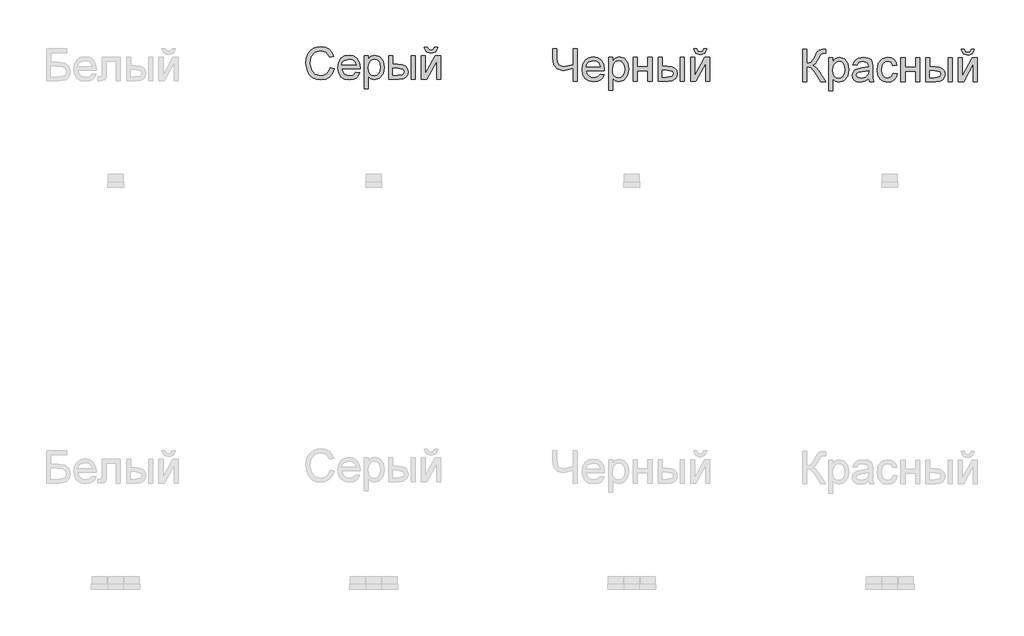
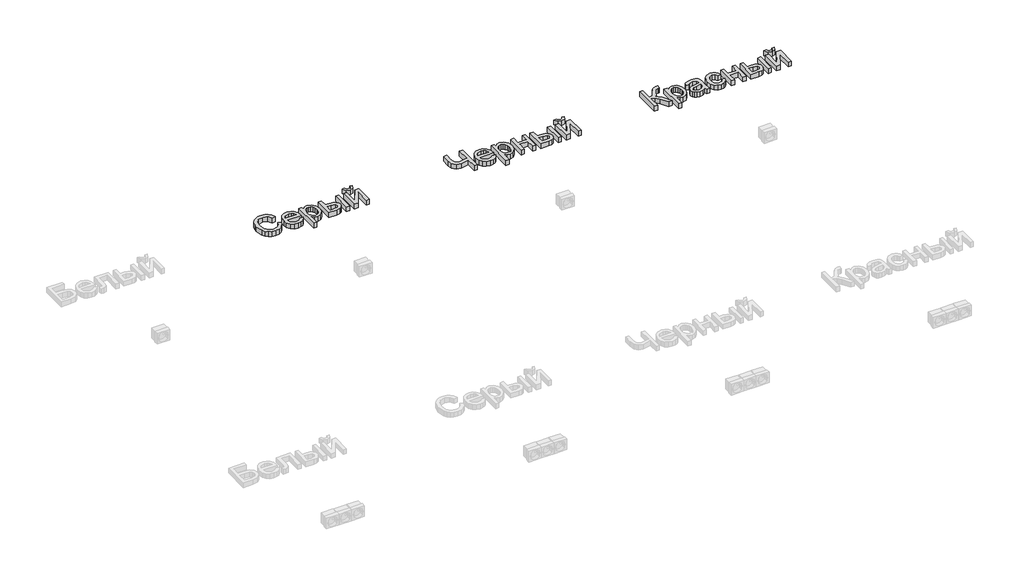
# One storey, part 15 of 15: 3 proxies.
"""IFC4 building model written with IfcOpenShell, lengths in millimetres."""

from ifc_helpers import new_model, si_unit, origin, origin_with_axes, place, context, project, spatial, polyline, outline, extrude, element, save

model = new_model("IFC4")

# Units and contexts
model_context = context("Model", 3, world=origin())
ifc_project = project(units=[si_unit("LENGTHUNIT", "METRE", prefix="MILLI")], contexts=[model_context])

# Site, building, storey
site = spatial("IfcSite", under=ifc_project)
building = spatial("IfcBuilding", under=site)
storey = spatial("IfcBuildingStorey", under=building, Name="Этаж 01", Elevation=0.0)

# Proxies
placement = place(None, origin())
element("IfcBuildingElementProxy", 1, Name="100 мм Arial", ObjectType="100 мм Arial", at=placement, inside=storey, context=model_context, shape_type="SweptSolid", body=[
    extrude(outline(polyline([(2173.9900999, 4640.2502819), (2186.5471386, 4637.0129204), (2180.7529972, 4622.380414), (2171.6601806, 4611.6903764), (2159.7162785, 4605.1512739), (2145.3688806, 4602.9715731), (2130.8038193, 4604.6209107), (2119.2369963, 4609.5689235), (2110.3710402, 4617.6439333), (2103.9085798, 4628.6742618), (2098.6478673, 4655.5296475), (2100.1347237, 4670.1774822), (2104.5952928, 4682.8264915), (2111.7965829, 4693.0750707), (2121.5056019, 4700.5216155), (2133.0203083, 4705.0557611), (2145.6386608, 4706.5671429), (2159.4066444, 4704.611237), (2170.7895265, 4698.7435192), (2179.4316877, 4689.3257401), (2184.9775088, 4676.7196504), (2172.42047, 4673.7275435), (2162.1197742, 4689.1663245), (2145.1481514, 4694.0101042), (2125.5032529, 4688.639027), (2114.4054794, 4674.2180528), (2111.204906, 4655.5541729), (2114.9940906, 4633.9227116), (2126.7908399, 4620.1026113), (2144.1180819, 4615.5286118), (2154.599653, 4617.085979), (2163.3337847, 4621.7580803), (2169.9280695, 4629.4958649), (2173.9900999, 4640.2502819)])), origin_with_axes(), (0.0, 0.0, 1.0), 20.0),
    extrude(outline(polyline([(2253.8940692, 4626.5160208), (2266.2058533, 4624.9463909), (2261.7698096, 4615.6696333), (2254.6911469, 4608.7350577), (2245.1292807, 4604.4124442), (2233.2436266, 4602.9715731), (2218.5099527, 4605.4578422), (2207.1730558, 4612.9166497), (2199.9441746, 4624.8636175), (2197.5345476, 4640.8143676), (2199.9687001, 4657.3016124), (2207.2711577, 4669.6317906), (2218.4547704, 4677.3205243), (2232.532388, 4679.8834355), (2246.171613, 4677.3266557), (2257.0701171, 4669.6563161), (2264.2162249, 4657.3506633), (2266.5982608, 4640.887944), (2266.5246844, 4637.5034297), (2210.0915863, 4637.5034297), (2212.2651558, 4628.1040447), (2217.3143362, 4621.1939946), (2224.6014654, 4616.9449575), (2233.4888812, 4615.5286118), (2245.8006653, 4618.1528367), (2253.8940692, 4626.5160208)]), holes=[polyline([(2210.0915863, 4650.0604685), (2254.041222, 4650.0604685), (2249.0135014, 4661.4402848), (2241.6926497, 4665.8548688), (2232.4833371, 4667.3263968), (2217.0200306, 4662.62977), (2212.1547912, 4657.1391312), (2210.0915863, 4650.0604685)])]), origin_with_axes(), (0.0, 0.0, 1.0), 20.0),
    extrude(outline(polyline([(2279.1552996, 4576.2878657), (2279.1552996, 4678.3138057), (2291.7123383, 4678.3138057), (2291.7123383, 4666.0020216), (2300.3943534, 4676.413082), (2312.1175263, 4679.8834355), (2328.034554, 4675.0273932), (2338.4333517, 4661.342183), (2341.9404934, 4641.99159), (2337.9796306, 4621.6477157), (2326.4771869, 4607.7908272), (2310.5969474, 4602.9715731), (2299.6708522, 4606.1966719), (2291.7123383, 4614.3513895), (2291.7123383, 4576.2878657), (2279.1552996, 4576.2878657)]), holes=[polyline([(2291.7123383, 4640.8388931), (2293.070436, 4629.5817041), (2297.1447291, 4621.7090294), (2303.1565341, 4617.0737162), (2310.3271673, 4615.5286118), (2317.6142965, 4617.1288985), (2323.7793856, 4621.9297586), (2327.9824374, 4630.0906075), (2329.3834546, 4641.7708608), (2328.0161599, 4652.9667362), (2323.9142756, 4660.9497755), (2317.9116677, 4665.7322415), (2310.8422021, 4667.3263968), (2303.7451453, 4665.6310739), (2297.5126111, 4660.5451053), (2293.1624065, 4652.2279065), (2291.7123383, 4640.8388931)])]), origin_with_axes(), (0.0, 0.0, 1.0), 20.0),
    extrude(outline(polyline([(2425.1308752, 4678.3138057), (2437.687914, 4678.3138057), (2437.687914, 4604.5412029), (2425.1308752, 4604.5412029), (2425.1308752, 4678.3138057)])), origin_with_axes(), (0.0, 0.0, 1.0), 20.0),
    extrude(outline(polyline([(2356.067162, 4678.3138057), (2368.6242008, 4678.3138057), (2368.6242008, 4651.6300983), (2384.148821, 4651.6300983), (2397.5673168, 4650.0574028), (2407.5093277, 4645.3393162), (2413.662154, 4637.8559833), (2415.7130962, 4627.9875487), (2413.9932478, 4619.002031), (2408.8337029, 4611.4205962), (2399.8972361, 4606.2610513), (2386.8466223, 4604.5412029), (2356.067162, 4604.5412029), (2356.067162, 4678.3138057)]), holes=[polyline([(2368.6242008, 4617.0982417), (2381.5245961, 4617.0982417), (2398.1773877, 4619.7347293), (2403.1560574, 4627.9630233), (2399.4649747, 4635.6885452), (2383.1678023, 4639.0730595), (2368.6242008, 4639.0730595), (2368.6242008, 4617.0982417)])]), origin_with_axes(), (0.0, 0.0, 1.0), 20.0),
    extrude(outline(polyline([(2497.3338482, 4704.9975131), (2506.7516272, 4704.9975131), (2500.6570489, 4691.03026), (2487.1312542, 4686.1619549), (2472.4895508, 4690.9934718), (2465.9412512, 4704.9975131), (2475.3590303, 4704.9975131), (2478.8906975, 4697.921916), (2486.0030827, 4695.579734), (2493.802181, 4697.8483396), (2497.3338482, 4704.9975131)])), origin_with_axes(), (0.0, 0.0, 1.0), 20.0),
    extrude(outline(polyline([(2456.5234722, 4678.3138057), (2469.0805109, 4678.3138057), (2469.0805109, 4622.0523859), (2499.9335476, 4678.3138057), (2516.1694063, 4678.3138057), (2516.1694063, 4604.5412029), (2503.6123675, 4604.5412029), (2503.6123675, 4660.4592662), (2472.9555346, 4604.5412029), (2456.5234722, 4604.5412029), (2456.5234722, 4678.3138057)])), origin_with_axes(), (0.0, 0.0, 1.0), 20.0),
])
element("IfcBuildingElementProxy", 2, Name="100 мм Arial", ObjectType="100 мм Arial", at=placement, inside=storey, context=model_context, shape_type="SweptSolid", body=[
    extrude(outline(polyline([(2939.4582433, 4599.1330428), (2926.9012045, 4599.1330428), (2926.9012045, 4639.3548076), (2895.8029132, 4632.0952696), (2877.4456016, 4637.0616765), (2866.8015492, 4649.6677662), (2864.1160106, 4669.668284), (2864.1160106, 4699.589353), (2876.6730494, 4699.589353), (2876.6730494, 4671.3605412), (2878.1813656, 4657.7826299), (2882.7063141, 4649.814919), (2897.2008647, 4644.6523084), (2926.9012045, 4650.8817768), (2926.9012045, 4699.589353), (2939.4582433, 4699.589353), (2939.4582433, 4599.1330428)])), origin_with_axes(), (0.0, 0.0, 1.0), 20.0),
    extrude(outline(polyline([(3011.5140634, 4621.1078607), (3023.8258475, 4619.5382308), (3019.3898038, 4610.2614732), (3012.311141, 4603.3268976), (3002.7492748, 4599.0042841), (2990.8636207, 4597.563413), (2976.1299468, 4600.0496821), (2964.79305, 4607.5084896), (2957.5641688, 4619.4554574), (2955.1545417, 4635.4062076), (2957.5886943, 4651.8934523), (2964.8911519, 4664.2236305), (2976.0747645, 4671.9123642), (2990.1523822, 4674.4752755), (3003.7916072, 4671.9184956), (3014.6901113, 4664.248156), (3021.836219, 4651.9425032), (3024.2182549, 4635.479784), (3024.1446785, 4632.0952696), (2967.7115805, 4632.0952696), (2969.8851499, 4622.6958846), (2974.9343303, 4615.7858345), (2982.2214595, 4611.5367974), (2991.1088754, 4610.1204518), (3003.4206595, 4612.7446767), (3011.5140634, 4621.1078607)]), holes=[polyline([(2967.7115805, 4644.6523084), (3011.6612162, 4644.6523084), (3006.6334956, 4656.0321248), (2999.3126439, 4660.4467087), (2990.1033313, 4661.9182367), (2974.6400247, 4657.2216099), (2969.7747853, 4651.7309711), (2967.7115805, 4644.6523084)])]), origin_with_axes(), (0.0, 0.0, 1.0), 20.0),
    extrude(outline(polyline([(3036.7752937, 4570.8797056), (3036.7752937, 4672.9056456), (3049.3323325, 4672.9056456), (3049.3323325, 4660.5938615), (3058.0143476, 4671.004922), (3069.7375205, 4674.4752755), (3085.6545481, 4669.6192331), (3096.0533459, 4655.9340229), (3099.5604876, 4636.5834299), (3095.5996247, 4616.2395556), (3084.097181, 4602.3826671), (3068.2169416, 4597.563413), (3057.2908463, 4600.7885118), (3049.3323325, 4608.9432294), (3049.3323325, 4570.8797056), (3036.7752937, 4570.8797056)]), holes=[polyline([(3049.3323325, 4635.430733), (3050.6904302, 4624.173544), (3054.7647233, 4616.3008693), (3060.7765282, 4611.6655561), (3067.9471614, 4610.1204518), (3075.2342906, 4611.7207384), (3081.3993797, 4616.5215985), (3085.6024315, 4624.6824474), (3087.0034488, 4636.3627008), (3085.636154, 4647.5585761), (3081.5342698, 4655.5416154), (3075.5316619, 4660.3240814), (3068.4621962, 4661.9182367), (3061.3651394, 4660.2229138), (3055.1326053, 4655.1369452), (3050.7824007, 4646.8197465), (3049.3323325, 4635.430733)])]), origin_with_axes(), (0.0, 0.0, 1.0), 20.0),
    extrude(outline(polyline([(3113.6871562, 4672.9056456), (3126.2441949, 4672.9056456), (3126.2441949, 4644.6523084), (3159.2064217, 4644.6523084), (3159.2064217, 4672.9056456), (3171.7634605, 4672.9056456), (3171.7634605, 4599.1330428), (3159.2064217, 4599.1330428), (3159.2064217, 4632.0952696), (3126.2441949, 4632.0952696), (3126.2441949, 4599.1330428), (3113.6871562, 4599.1330428), (3113.6871562, 4672.9056456)])), origin_with_axes(), (0.0, 0.0, 1.0), 20.0),
    extrude(outline(polyline([(3190.5990186, 4672.9056456), (3203.1560574, 4672.9056456), (3203.1560574, 4646.2219382), (3218.6806776, 4646.2219382), (3232.0991734, 4644.6492427), (3242.0411843, 4639.9311561), (3248.1940107, 4632.4478232), (3250.2449528, 4622.5793887), (3248.5251045, 4613.5938709), (3243.3655595, 4606.0124362), (3234.4290927, 4600.8528912), (3221.3784789, 4599.1330428), (3190.5990186, 4599.1330428), (3190.5990186, 4672.9056456)]), holes=[polyline([(3203.1560574, 4611.6900816), (3216.0564527, 4611.6900816), (3232.7092443, 4614.3265692), (3237.687914, 4622.5548632), (3233.9968313, 4630.2803851), (3217.6996589, 4633.6648995), (3203.1560574, 4633.6648995), (3203.1560574, 4611.6900816)])]), origin_with_axes(), (0.0, 0.0, 1.0), 20.0),
    extrude(outline(polyline([(3259.6627319, 4672.9056456), (3272.2197706, 4672.9056456), (3272.2197706, 4599.1330428), (3259.6627319, 4599.1330428), (3259.6627319, 4672.9056456)])), origin_with_axes(), (0.0, 0.0, 1.0), 20.0),
    extrude(outline(polyline([(3291.0553288, 4672.9056456), (3303.6123675, 4672.9056456), (3303.6123675, 4616.6442258), (3334.4654042, 4672.9056456), (3350.7012629, 4672.9056456), (3350.7012629, 4599.1330428), (3338.1442242, 4599.1330428), (3338.1442242, 4655.0511061), (3307.4873912, 4599.1330428), (3291.0553288, 4599.1330428), (3291.0553288, 4672.9056456)])), origin_with_axes(), (0.0, 0.0, 1.0), 20.0),
    extrude(outline(polyline([(3331.8657048, 4699.589353), (3341.2834839, 4699.589353), (3335.1889055, 4685.6220999), (3321.6631108, 4680.7537948), (3307.0214074, 4685.5853117), (3300.4731079, 4699.589353), (3309.8908869, 4699.589353), (3313.4225541, 4692.5137559), (3320.5349393, 4690.1715739), (3328.3340376, 4692.4401796), (3331.8657048, 4699.589353)])), origin_with_axes(), (0.0, 0.0, 1.0), 20.0),
])
element("IfcBuildingElementProxy", 3, Name="100 мм Arial", ObjectType="100 мм Arial", at=placement, inside=storey, context=model_context, shape_type="SweptSolid", body=[
    extrude(outline(polyline([(3639.0019331, 4697.9694579), (3651.5589719, 4697.9694579), (3651.5589719, 4654.0198222), (3665.5998014, 4657.3430229), (3675.3977252, 4674.1552301), (3682.3261694, 4688.1960596), (3690.1743186, 4695.1490293), (3701.3947195, 4697.9694579), (3709.6352762, 4697.8223051), (3709.6352762, 4685.2652663), (3706.8638985, 4685.3388427), (3704.0925208, 4685.4124191), (3694.2823342, 4682.3957868), (3686.8265925, 4669.470866), (3677.9361109, 4653.7255166), (3669.2663586, 4648.5261178), (3678.9600491, 4642.8484723), (3688.5188497, 4631.0149348), (3709.6352762, 4597.5131478), (3695.0671492, 4597.5131478), (3677.2126097, 4625.8155359), (3664.6433082, 4640.5921294), (3651.5589719, 4644.6020431), (3651.5589719, 4597.5131478), (3639.0019331, 4597.5131478), (3639.0019331, 4697.9694579)])), origin_with_axes(), (0.0, 0.0, 1.0), 20.0),
    extrude(outline(polyline([(3719.0530553, 4569.2598105), (3719.0530553, 4671.2857505), (3731.610094, 4671.2857505), (3731.610094, 4658.9739664), (3740.2921091, 4669.3850269), (3752.015282, 4672.8553804), (3767.9323097, 4667.999338), (3778.3311074, 4654.3141278), (3781.8382491, 4634.9635349), (3777.8773863, 4614.6196605), (3766.3749426, 4600.7627721), (3750.4947031, 4595.9435179), (3739.5686079, 4599.1686167), (3731.610094, 4607.3233343), (3731.610094, 4569.2598105), (3719.0530553, 4569.2598105)]), holes=[polyline([(3731.610094, 4633.810838), (3732.9681917, 4622.5536489), (3737.0424848, 4614.6809742), (3743.0542898, 4610.0456611), (3750.224923, 4608.5005567), (3757.5120522, 4610.1008434), (3763.6771413, 4614.9017034), (3767.8801931, 4623.0625523), (3769.2812103, 4634.7428057), (3767.9139156, 4645.9386811), (3763.8120313, 4653.9217204), (3757.8094234, 4658.7041863), (3750.7399578, 4660.2983416), (3743.642901, 4658.6030187), (3737.4103668, 4653.5170502), (3733.0601622, 4645.1998514), (3731.610094, 4633.810838)])]), origin_with_axes(), (0.0, 0.0, 1.0), 20.0),
    extrude(outline(polyline([(3843.0538131, 4606.9309268), (3830.8769191, 4598.42059), (3817.4247008, 4595.9435179), (3806.9308669, 4597.43344), (3799.1900165, 4601.9032062), (3794.4167477, 4608.6906291), (3792.825658, 4617.1335208), (3795.2291537, 4627.0663347), (3801.5444613, 4634.2768218), (3810.336841, 4638.3971002), (3821.2016226, 4640.2855611), (3842.9802367, 4644.6020431), (3843.0538131, 4647.3979463), (3839.5957223, 4656.6685726), (3825.7143084, 4660.2983416), (3813.0101168, 4657.8825832), (3806.9523266, 4649.3109327), (3794.3952879, 4650.8805625), (3799.8276787, 4663.1432957), (3810.7660367, 4670.3292573), (3827.3329892, 4672.8553804), (3842.551041, 4670.6235629), (3851.147217, 4665.0194939), (3854.9977152, 4656.4968943), (3855.6108519, 4645.5094854), (3855.6108519, 4629.8867633), (3856.248514, 4608.071361), (3858.7501116, 4597.5131478), (3846.1930728, 4597.5131478), (3843.0538131, 4606.9309268)]), holes=[polyline([(3843.0538131, 4632.0450044), (3822.7957779, 4628.1945062), (3811.99231, 4626.1588925), (3807.0994794, 4622.8479545), (3805.3826968, 4618.0164376), (3809.1228304, 4611.2228835), (3820.0979766, 4608.5005567), (3832.8021682, 4611.5049263), (3840.9936739, 4618.7767271), (3842.9802367, 4628.4888118), (3843.0538131, 4632.0450044)])]), origin_with_axes(), (0.0, 0.0, 1.0), 20.0),
    extrude(outline(polyline([(3919.9656756, 4624.1968551), (3932.5227143, 4622.6272253), (3929.021704, 4611.4589411), (3922.4427477, 4603.019115), (3913.4051133, 4597.7124172), (3902.528069, 4595.9435179), (3889.1708869, 4598.411393), (3878.7261039, 4605.8150181), (3871.9846663, 4617.8294309), (3869.7375205, 4634.129669), (3873.575756, 4654.9885781), (3885.2744034, 4668.3917455), (3902.3563907, 4672.8553804), (3912.9667206, 4671.3225387), (3921.4494663, 4666.7240138), (3927.5348476, 4659.3050602), (3930.9530845, 4649.3109327), (3918.3960457, 4647.7413028), (3912.5712475, 4657.1468192), (3902.4544926, 4660.2983416), (3894.3396289, 4658.7471059), (3887.8986283, 4654.0933986), (3883.6955765, 4646.0858339), (3882.2945592, 4634.4730255), (3883.6649197, 4622.7038674), (3887.776001, 4614.6687115), (3894.1005056, 4610.0425954), (3902.1111361, 4608.5005567), (3913.9446736, 4612.3510549), (3919.9656756, 4624.1968551)])), origin_with_axes(), (0.0, 0.0, 1.0), 20.0),
    extrude(outline(polyline([(3943.5101232, 4671.2857505), (3956.067162, 4671.2857505), (3956.067162, 4643.0324133), (3989.0293888, 4643.0324133), (3989.0293888, 4671.2857505), (4001.5864276, 4671.2857505), (4001.5864276, 4597.5131478), (3989.0293888, 4597.5131478), (3989.0293888, 4630.4753745), (3956.067162, 4630.4753745), (3956.067162, 4597.5131478), (3943.5101232, 4597.5131478), (3943.5101232, 4671.2857505)])), origin_with_axes(), (0.0, 0.0, 1.0), 20.0),
    extrude(outline(polyline([(4089.4856989, 4671.2857505), (4102.0427377, 4671.2857505), (4102.0427377, 4597.5131478), (4089.4856989, 4597.5131478), (4089.4856989, 4671.2857505)])), origin_with_axes(), (0.0, 0.0, 1.0), 20.0),
    extrude(outline(polyline([(4020.4219857, 4671.2857505), (4032.9790245, 4671.2857505), (4032.9790245, 4644.6020431), (4048.5036447, 4644.6020431), (4061.9221404, 4643.0293476), (4071.8641514, 4638.311261), (4078.0169777, 4630.8279281), (4080.0679199, 4620.9594936), (4078.3480715, 4611.9739759), (4073.1885265, 4604.3925411), (4064.2520597, 4599.2329961), (4051.201446, 4597.5131478), (4020.4219857, 4597.5131478), (4020.4219857, 4671.2857505)]), holes=[polyline([(4032.9790245, 4610.0701865), (4045.8794198, 4610.0701865), (4062.5322114, 4612.7066742), (4067.5108811, 4620.9349681), (4063.8197984, 4628.66049), (4047.522626, 4632.0450044), (4032.9790245, 4632.0450044), (4032.9790245, 4610.0701865)])]), origin_with_axes(), (0.0, 0.0, 1.0), 20.0),
    extrude(outline(polyline([(4120.8782959, 4671.2857505), (4133.4353346, 4671.2857505), (4133.4353346, 4615.0243307), (4164.2883713, 4671.2857505), (4180.52423, 4671.2857505), (4180.52423, 4597.5131478), (4167.9671912, 4597.5131478), (4167.9671912, 4653.431211), (4137.3103583, 4597.5131478), (4120.8782959, 4597.5131478), (4120.8782959, 4671.2857505)])), origin_with_axes(), (0.0, 0.0, 1.0), 20.0),
    extrude(outline(polyline([(4161.6886719, 4697.9694579), (4171.1064509, 4697.9694579), (4165.0118725, 4684.0022048), (4151.4860779, 4679.1338998), (4136.8443744, 4683.9654166), (4130.2960749, 4697.9694579), (4139.713854, 4697.9694579), (4143.2455212, 4690.8938609), (4150.3579064, 4688.5516788), (4158.1570047, 4690.8202845), (4161.6886719, 4697.9694579)])), origin_with_axes(), (0.0, 0.0, 1.0), 20.0),
])

save(model, "model.ifc")
